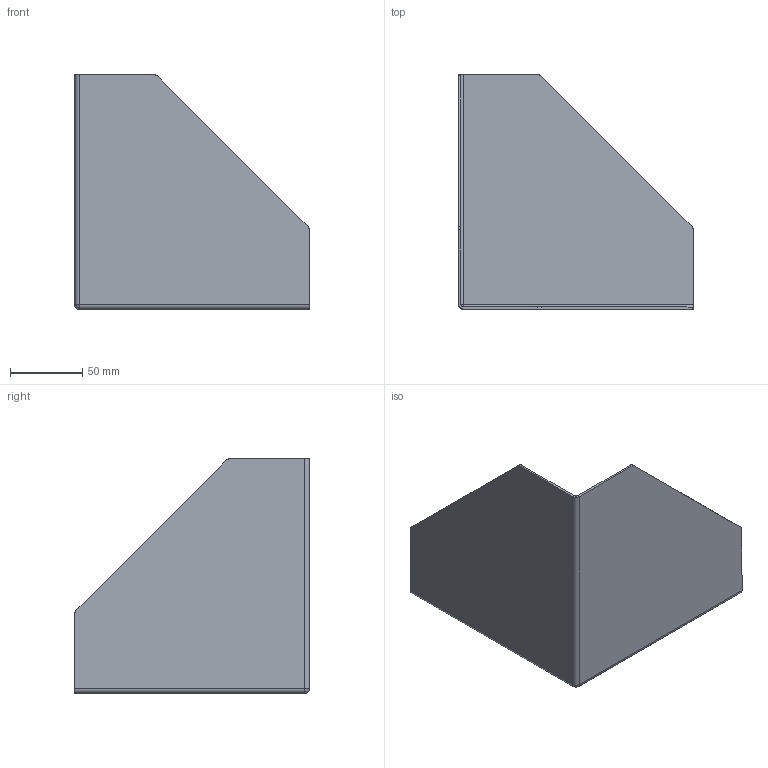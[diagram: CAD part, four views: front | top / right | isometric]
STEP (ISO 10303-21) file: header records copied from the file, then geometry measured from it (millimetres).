
FILE_DESCRIPTION (( 'STEP AP203' ), '1' );
FILE_NAME ('FDPCG023D_2_90.step', '2019-09-11T19:52:05', ( 'ydmin' ), ( '' ), 'SwSTEP 2.0', 'SolidWorks 2017', '' );
FILE_SCHEMA (( 'CONFIG_CONTROL_DESIGN' ));
Length unit declared in the file: inch
Products named in the file (1): FDPCG023D_2_90
Bounding box: 161.93 x 161.93 x 161.93 mm (x, y, z)
Volume: 96116.6 mm3; surface area: 122326.1 mm2
Topology: 1 solids, 1 shells, 26 faces, 68 edges, 42 vertices
Faces by surface type: plane 12, cylinder 12, bspline 2
Entity records: 887 total; most frequent: CARTESIAN_POINT 165, DIRECTION 140, ORIENTED_EDGE 132, EDGE_CURVE 66, AXIS2_PLACEMENT_3D 49, VECTOR 42, VERTEX_POINT 42, LINE 42
